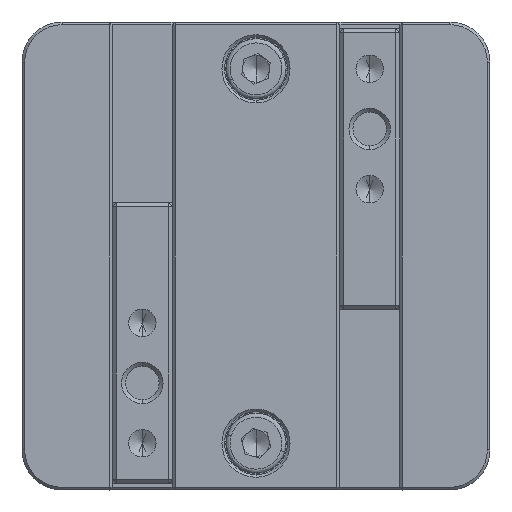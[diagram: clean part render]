
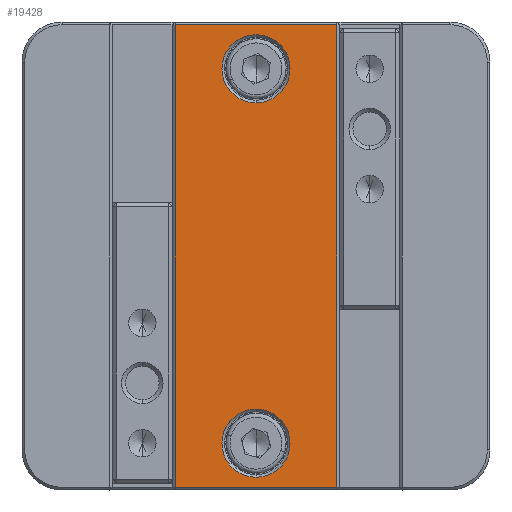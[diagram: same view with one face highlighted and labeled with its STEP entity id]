
A CAD part, front view. The second image highlights one B-rep face of the part: STEP entity #19428.
In plain terms, the highlighted planar face has unit normal (0, -1, 0).
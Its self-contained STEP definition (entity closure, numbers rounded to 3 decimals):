
#1114 = LINE ( 'NONE', #19076, #7153 ) ;
#1282 = DIRECTION ( 'NONE',  ( 0., -1., 0. ) ) ;
#1761 = VERTEX_POINT ( 'NONE', #29825 ) ;
#2249 = CARTESIAN_POINT ( 'NONE',  ( -6.05, -13., 17.3 ) ) ;
#2594 = VERTEX_POINT ( 'NONE', #10037 ) ;
#2601 = VECTOR ( 'NONE', #3901, 1000. ) ;
#3407 = EDGE_CURVE ( 'NONE', #20108, #30455, #8923, .T. ) ;
#3600 = DIRECTION ( 'NONE',  ( 0., 0., -1. ) ) ;
#3901 = DIRECTION ( 'NONE',  ( -1., 0., 0. ) ) ;
#4416 = EDGE_LOOP ( 'NONE', ( #21005, #22509, #24410, #25195 ) ) ;
#5415 = FACE_BOUND ( 'NONE', #28006, .T. ) ;
#6176 = VERTEX_POINT ( 'NONE', #25975 ) ;
#7153 = VECTOR ( 'NONE', #3600, 1000. ) ;
#7186 = AXIS2_PLACEMENT_3D ( 'NONE', #26072, #23571, #8076 ) ;
#8076 = DIRECTION ( 'NONE',  ( 1., 0., 0. ) ) ;
#8923 = LINE ( 'NONE', #25318, #28789 ) ;
#9052 = CIRCLE ( 'NONE', #32803, 2.55 ) ;
#10037 = CARTESIAN_POINT ( 'NONE',  ( 6.05, -13., 17.3 ) ) ;
#10348 = ORIENTED_EDGE ( 'NONE', *, *, #28736, .F. ) ;
#10618 = EDGE_CURVE ( 'NONE', #30455, #2594, #30712, .T. ) ;
#11099 = DIRECTION ( 'NONE',  ( 0., -1., 0. ) ) ;
#11828 = DIRECTION ( 'NONE',  ( 0., 1., 0. ) ) ;
#12875 = AXIS2_PLACEMENT_3D ( 'NONE', #16714, #1282, #19325 ) ;
#13090 = FACE_OUTER_BOUND ( 'NONE', #4416, .T. ) ;
#13339 = DIRECTION ( 'NONE',  ( 0., 1., 0. ) ) ;
#13422 = EDGE_CURVE ( 'NONE', #1761, #6176, #15021, .T. ) ;
#14375 = CIRCLE ( 'NONE', #25597, 2.55 ) ;
#14453 = CARTESIAN_POINT ( 'NONE',  ( -6.05, -13., -17.3 ) ) ;
#14658 = VERTEX_POINT ( 'NONE', #2249 ) ;
#15021 = CIRCLE ( 'NONE', #12875, 2.55 ) ;
#15903 = EDGE_CURVE ( 'NONE', #14658, #20108, #1114, .T. ) ;
#16714 = CARTESIAN_POINT ( 'NONE',  ( 0., -13., 14. ) ) ;
#17298 = DIRECTION ( 'NONE',  ( 0., 0., 1. ) ) ;
#17362 = CARTESIAN_POINT ( 'NONE',  ( 0., -13., -16.55 ) ) ;
#17598 = DIRECTION ( 'NONE',  ( 1., 0., 0. ) ) ;
#19076 = CARTESIAN_POINT ( 'NONE',  ( -6.05, -13., 0. ) ) ;
#19138 = FACE_BOUND ( 'NONE', #26666, .T. ) ;
#19172 = EDGE_CURVE ( 'NONE', #25941, #22190, #9052, .T. ) ;
#19325 = DIRECTION ( 'NONE',  ( 0., 0., -1. ) ) ;
#19428 = ADVANCED_FACE ( 'NONE', ( #5415, #19138, #13090 ), #20962, .T. ) ;
#20108 = VERTEX_POINT ( 'NONE', #14453 ) ;
#20962 = PLANE ( 'NONE',  #7186 ) ;
#20965 = EDGE_CURVE ( 'NONE', #22190, #25941, #23206, .T. ) ;
#21005 = ORIENTED_EDGE ( 'NONE', *, *, #15903, .T. ) ;
#21971 = CARTESIAN_POINT ( 'NONE',  ( 0., -13., 17.3 ) ) ;
#22190 = VERTEX_POINT ( 'NONE', #29569 ) ;
#22509 = ORIENTED_EDGE ( 'NONE', *, *, #3407, .T. ) ;
#22986 = VECTOR ( 'NONE', #17298, 1000. ) ;
#23206 = CIRCLE ( 'NONE', #32639, 2.55 ) ;
#23214 = LINE ( 'NONE', #21971, #2601 ) ;
#23571 = DIRECTION ( 'NONE',  ( 0., -1., 0. ) ) ;
#23722 = CARTESIAN_POINT ( 'NONE',  ( 6.05, -13., -17.3 ) ) ;
#24410 = ORIENTED_EDGE ( 'NONE', *, *, #10618, .T. ) ;
#25195 = ORIENTED_EDGE ( 'NONE', *, *, #29978, .T. ) ;
#25318 = CARTESIAN_POINT ( 'NONE',  ( 0., -13., -17.3 ) ) ;
#25597 = AXIS2_PLACEMENT_3D ( 'NONE', #26597, #11099, #29234 ) ;
#25941 = VERTEX_POINT ( 'NONE', #17362 ) ;
#25975 = CARTESIAN_POINT ( 'NONE',  ( 0., -13., 11.45 ) ) ;
#26072 = CARTESIAN_POINT ( 'NONE',  ( -6.05, -13., -17.3 ) ) ;
#26597 = CARTESIAN_POINT ( 'NONE',  ( 0., -13., 14. ) ) ;
#26666 = EDGE_LOOP ( 'NONE', ( #33239, #32413 ) ) ;
#27338 = CARTESIAN_POINT ( 'NONE',  ( 0., -13., -14. ) ) ;
#28006 = EDGE_LOOP ( 'NONE', ( #10348, #33435 ) ) ;
#28736 = EDGE_CURVE ( 'NONE', #6176, #1761, #14375, .T. ) ;
#28789 = VECTOR ( 'NONE', #17598, 1000. ) ;
#28875 = CARTESIAN_POINT ( 'NONE',  ( 0., -13., -14. ) ) ;
#29234 = DIRECTION ( 'NONE',  ( 0., 0., -1. ) ) ;
#29569 = CARTESIAN_POINT ( 'NONE',  ( 0., -13., -11.45 ) ) ;
#29825 = CARTESIAN_POINT ( 'NONE',  ( 0., -13., 16.55 ) ) ;
#29958 = DIRECTION ( 'NONE',  ( 0., 0., -1. ) ) ;
#29978 = EDGE_CURVE ( 'NONE', #2594, #14658, #23214, .T. ) ;
#30455 = VERTEX_POINT ( 'NONE', #23722 ) ;
#30712 = LINE ( 'NONE', #32873, #22986 ) ;
#31464 = DIRECTION ( 'NONE',  ( 0., 0., -1. ) ) ;
#32413 = ORIENTED_EDGE ( 'NONE', *, *, #20965, .T. ) ;
#32639 = AXIS2_PLACEMENT_3D ( 'NONE', #28875, #13339, #31464 ) ;
#32803 = AXIS2_PLACEMENT_3D ( 'NONE', #27338, #11828, #29958 ) ;
#32873 = CARTESIAN_POINT ( 'NONE',  ( 6.05, -13., 0. ) ) ;
#33239 = ORIENTED_EDGE ( 'NONE', *, *, #19172, .T. ) ;
#33435 = ORIENTED_EDGE ( 'NONE', *, *, #13422, .F. ) ;
